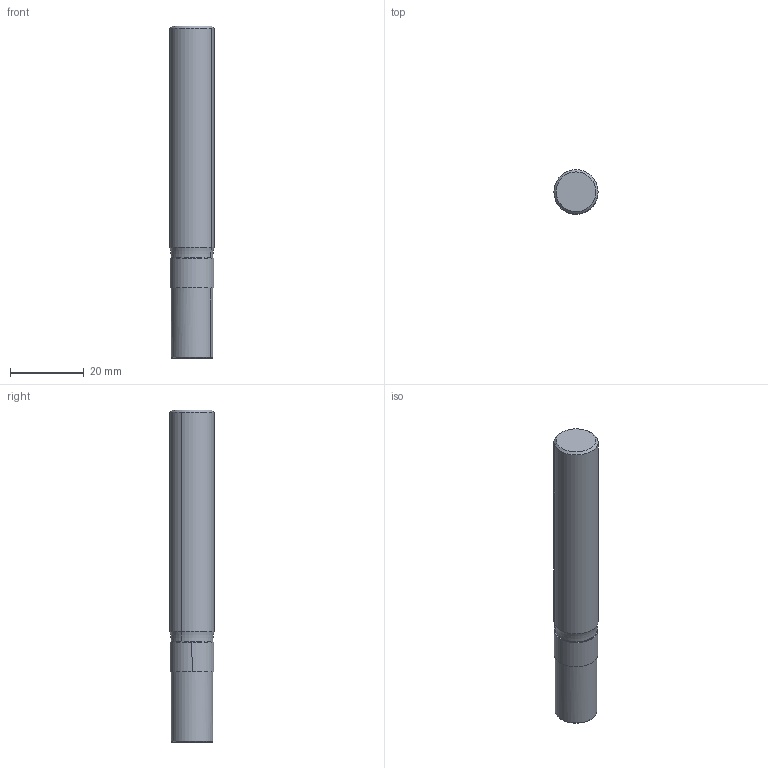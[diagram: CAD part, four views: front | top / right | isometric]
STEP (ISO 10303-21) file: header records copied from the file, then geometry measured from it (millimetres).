
FILE_DESCRIPTION(('CATIA V5 STEP','CAx-IF Rec.Pracs.--- Model Styling and Organization---1.2---2011-12-15'),'2;1');
FILE_NAME('I:\isr\design\admin8\users\weaam_s\123.stp','2013-10-27T08:36:50+00:00',('none'),('none'),'CATIA Version 5 Release 21 SP 5 (IN-10)','CATIA V5 STEP AP214','none');
FILE_SCHEMA(('AUTOMOTIVE_DESIGN { 1 0 10303 214 1 1 1 1 }'));
Length unit declared in the file: millimetre
Products named in the file (1): 620037683_0 Holder-Tool MM S-A-L090-C12-T08-N 
Bounding box: 12 x 12 x 90 mm (x, y, z)
Volume: 9887 mm3; surface area: 3563.5 mm2
Topology: 1 solids, 1 shells, 18 faces, 39 edges, 25 vertices
Faces by surface type: cylinder 8, plane 4, cone 4, torus 2
Entity records: 530 total; most frequent: CARTESIAN_POINT 84, ORIENTED_EDGE 78, DIRECTION 77, AXIS2_PLACEMENT_3D 47, EDGE_CURVE 39, CIRCLE 27, VERTEX_POINT 25, EDGE_LOOP 20
